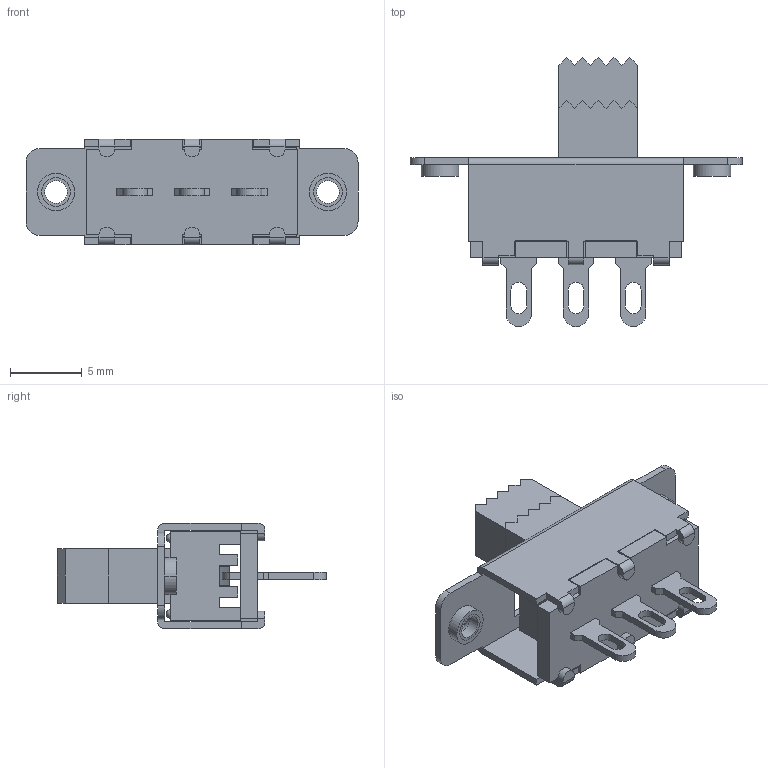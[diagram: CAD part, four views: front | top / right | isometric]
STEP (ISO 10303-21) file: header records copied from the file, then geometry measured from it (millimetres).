
FILE_DESCRIPTION((''),'2;1');
FILE_NAME('SSD-12F25-G7-NS_ASM','2022-03-21T',('Administrator'),(''),'PRO/ENGINEER BY PARAMETRIC TECHNOLOGY CORPORATION, 2010100','PRO/ENGINEER BY PARAMETRIC TECHNOLOGY CORPORATION, 2010100','');
FILE_SCHEMA(('CONFIG_CONTROL_DESIGN','SHAPE_APPEARANCE_LAYERS_GROUPS'));
Length unit declared in the file: millimetre
Products named in the file (9): 10-42213; 11-412LG-4; 15-41205; 12-42219; 12-42220; 13-42205; 14-32-180-350T6; 11-412LG-7; SSD-12F25-G7-NS_ASM
Assembly tree (9 placements, depth 2):
  SSD-12F25-G7-NS_ASM
    10-42213
    11-412LG-4
    15-41205
    12-42219
    12-42220  x2
    13-42205
    14-32-180-350T6
    11-412LG-7
Bounding box: 23.2 x 18.8 x 7.4 mm (x, y, z)
Volume: 1058.2 mm3; surface area: 2422.6 mm2
Topology: 9 solids, 11 shells, 360 faces, 994 edges, 660 vertices
Faces by surface type: plane 280, cylinder 58, bspline 14, torus 4, sphere 4
Entity records: 16733 total; most frequent: CARTESIAN_POINT 5293, ORIENTED_EDGE 1876, DIRECTION 1770, EDGE_CURVE 942, PRESENTATION_STYLE_ASSIGNMENT 788, STYLED_ITEM 788, CURVE_STYLE 782, VECTOR 766
